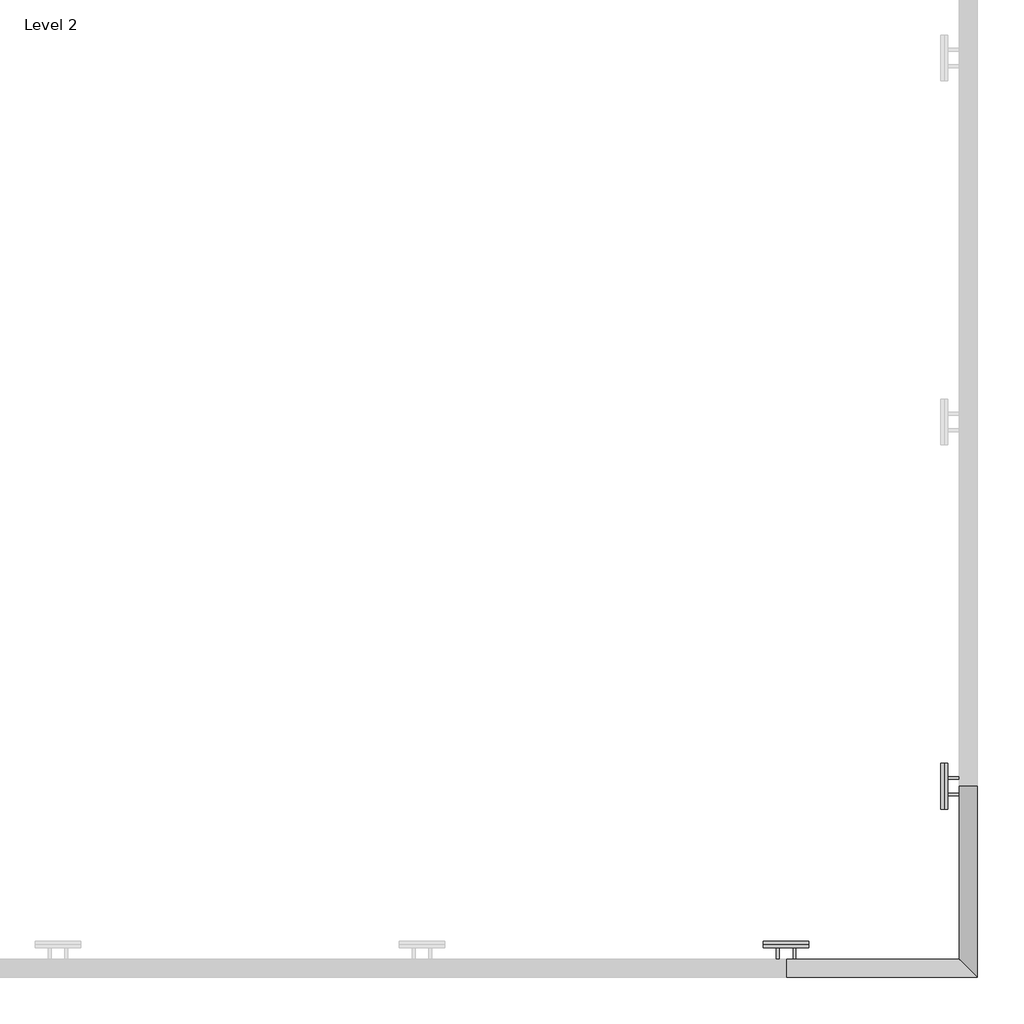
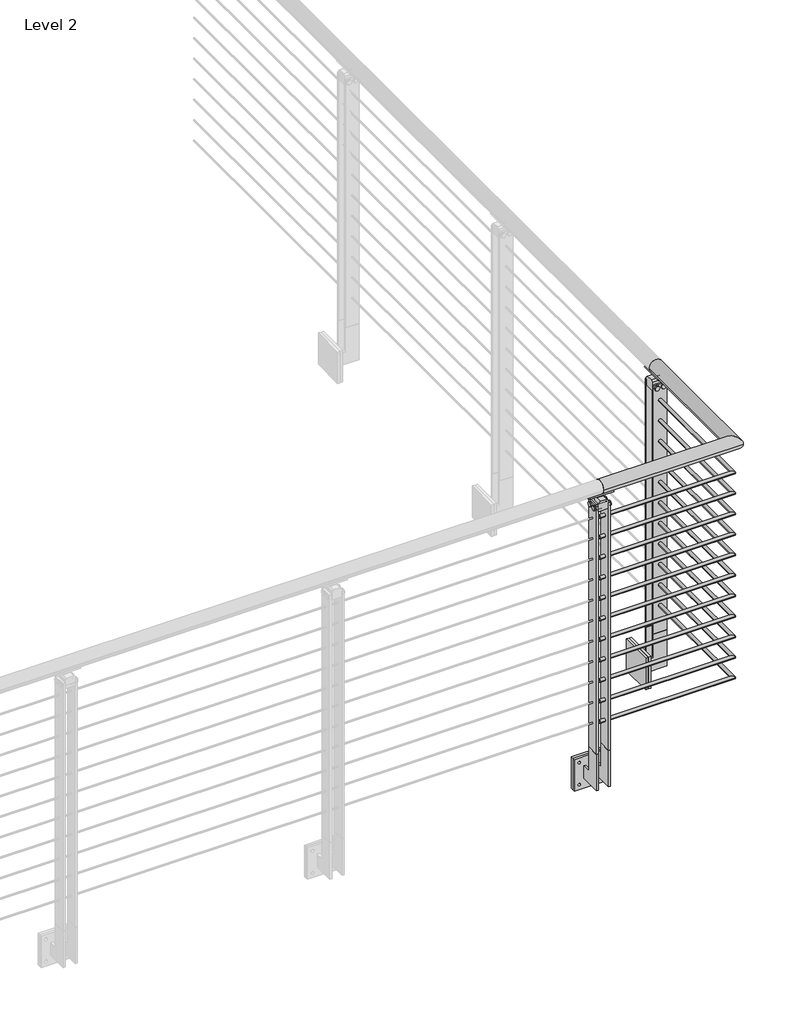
# One storey, part 7 of 31: 1 railing.
"""IFC4 building model written with IfcOpenShell, lengths in millimetres."""

from ifc_helpers import new_model, si_unit, point, frame, frame_2d, origin, place, context, project, spatial, polyline, circle_curve, ellipse_curve, trimmed, segment, composite_curve, outline, extrude, element, save
from ifc_brep_helpers import plane_surface, cylinder_surface, revolved_surface, advanced_brep

model = new_model("IFC4")

# Units and contexts
model_context = context("Model", 3, world=origin())
ifc_project = project(units=[si_unit("LENGTHUNIT", "METRE", prefix="MILLI")], contexts=[model_context])

# Site, building, storey
site = spatial("IfcSite", under=ifc_project)
building = spatial("IfcBuilding", under=site)
storey = spatial("IfcBuildingStorey", under=building, Name="Level 2", Elevation=3048.0)

# Railing
placement = place(None, origin())
element("IfcRailing", 1, ObjectType="VIVA-BLADE-Cable-Fascia Mount-Corner", at=placement, inside=storey, context=model_context, shape_type="SolidModel", body=[
    advanced_brep(
    [(-4153.9664794, -52295.2426165, 4102.1), (-4153.9664794, -52346.0426165, 4102.1), (-3620.5664794, -52346.0426165, 4102.1), (-3671.3664794, -52295.2426165, 4102.1), (-3671.3664794, -51812.6426165, 4102.1), (-3620.5664794, -51812.6426165, 4102.1)],
    [
        (0, 1, circle_curve(frame((-4153.9664794, -52320.6426165, 4102.1), z_axis=(-1.0, 0.0, 0.0), x_axis=(0.0, -1.0, 0.0)), 25.4)),
        (1, 0, circle_curve(frame((-4153.9664794, -52320.6426165, 4102.1), z_axis=(-1.0, 0.0, 0.0), x_axis=(0.0, -1.0, 0.0)), 25.4)),
        (2, 3, ellipse_curve(frame((-3645.9664794, -52320.6426165, 4102.1), z_axis=(-0.7071067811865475, -0.7071067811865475, 0.0), x_axis=(0.7071067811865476, -0.7071067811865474, 0.0)), 35.9210245, 25.4)),
        (3, 0),
        (1, 2),
        (3, 2, ellipse_curve(frame((-3645.9664794, -52320.6426165, 4102.1), z_axis=(-0.7071067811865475, -0.7071067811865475, 0.0), x_axis=(0.7071067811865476, -0.7071067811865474, 0.0)), 35.9210245, 25.4)),
        (4, 5, circle_curve(frame((-3645.9664794, -51812.6426165, 4102.1), z_axis=(0.0, 1.0, 0.0), x_axis=(1.0, 0.0, 0.0)), 25.4)),
        (5, 4, circle_curve(frame((-3645.9664794, -51812.6426165, 4102.1), z_axis=(0.0, 1.0, 0.0), x_axis=(1.0, 0.0, 0.0)), 25.4)),
        (4, 3),
        (2, 5),
    ],
    [
        plane_surface(frame((-4153.9664794, -52320.6426165, 4127.5), z_axis=(-1.0, 0.0, 0.0), x_axis=(0.0, -1.0, 0.0))),
        cylinder_surface(frame((-3645.9664794, -52320.6426165, 4102.1), z_axis=(1.0, 0.0, 0.0), x_axis=(0.0, -1.0, 0.0)), 25.4),
        plane_surface(frame((-3645.9664794, -51812.6426165, 4127.5), z_axis=(0.0, 1.0, 0.0), x_axis=(0.0, 0.0, -1.0))),
        cylinder_surface(frame((-3645.9664794, -51812.6426165, 4102.1), z_axis=(0.0, 1.0, 0.0), x_axis=(1.0, 0.0, 0.0)), 25.4),
    ],
    [
        (0, [[1, 2]]),
        (1, [[3, 4, -2, 5]]),
        (1, [[6, -5, -1, -4]]),
        (2, [[7, 8]]),
        (3, [[-7, 9, -3, 10]]),
        (3, [[-8, -10, -6, -9]]),
    ],
),
    advanced_brep(
    [(-3652.3164794, -51812.6426165, 3981.45), (-3639.6164794, -51812.6426165, 3981.45), (-3639.6164794, -52326.9926165, 3981.45), (-3652.3164794, -52314.2926165, 3981.45), (-4153.9664794, -52314.2926165, 3981.45), (-4153.9664794, -52326.9926165, 3981.45)],
    [
        (0, 1, circle_curve(frame((-3645.9664794, -51812.6426165, 3981.45), z_axis=(0.0, 1.0, 0.0), x_axis=(1.0, 0.0, 0.0)), 6.35)),
        (1, 0, circle_curve(frame((-3645.9664794, -51812.6426165, 3981.45), z_axis=(0.0, 1.0, 0.0), x_axis=(1.0, 0.0, 0.0)), 6.35)),
        (1, 2),
        (2, 3, ellipse_curve(frame((-3645.9664794, -52320.6426165, 3981.45), z_axis=(0.7071067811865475, 0.7071067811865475, 0.0), x_axis=(-0.7071067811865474, 0.7071067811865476, 0.0)), 8.9802561, 6.35)),
        (3, 0),
        (3, 2, ellipse_curve(frame((-3645.9664794, -52320.6426165, 3981.45), z_axis=(0.7071067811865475, 0.7071067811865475, 0.0), x_axis=(-0.7071067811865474, 0.7071067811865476, 0.0)), 8.9802561, 6.35)),
        (4, 5, circle_curve(frame((-4153.9664794, -52320.6426165, 3981.45), z_axis=(-1.0, 0.0, 0.0), x_axis=(0.0, -1.0, 0.0)), 6.35)),
        (5, 4, circle_curve(frame((-4153.9664794, -52320.6426165, 3981.45), z_axis=(-1.0, 0.0, 0.0), x_axis=(0.0, -1.0, 0.0)), 6.35)),
        (2, 5),
        (4, 3),
    ],
    [
        plane_surface(frame((-3645.9664794, -51812.6426165, 3987.8), z_axis=(0.0, 1.0, 0.0), x_axis=(0.0, 0.0, -1.0))),
        cylinder_surface(frame((-3645.9664794, -51812.6426165, 3981.45), z_axis=(0.0, 1.0, 0.0), x_axis=(1.0, 0.0, 0.0)), 6.35),
        plane_surface(frame((-4153.9664794, -52320.6426165, 3987.8), z_axis=(-1.0, 0.0, 0.0), x_axis=(0.0, -1.0, 0.0))),
        cylinder_surface(frame((-3645.9664794, -52320.6426165, 3981.45), z_axis=(1.0, 0.0, 0.0), x_axis=(0.0, -1.0, 0.0)), 6.35),
    ],
    [
        (0, [[1, 2]]),
        (1, [[-2, 3, 4, 5]]),
        (1, [[-1, -5, 6, -3]]),
        (2, [[7, 8]]),
        (3, [[-4, 9, -7, 10]]),
        (3, [[-6, -10, -8, -9]]),
    ],
),
    advanced_brep(
    [(-3652.3164794, -51812.6426165, 3898.9), (-3639.6164794, -51812.6426165, 3898.9), (-3639.6164794, -52326.9926165, 3898.9), (-3652.3164794, -52314.2926165, 3898.9), (-4153.9664794, -52314.2926165, 3898.9), (-4153.9664794, -52326.9926165, 3898.9)],
    [
        (0, 1, circle_curve(frame((-3645.9664794, -51812.6426165, 3898.9), z_axis=(0.0, 1.0, 0.0), x_axis=(1.0, 0.0, 0.0)), 6.35)),
        (1, 0, circle_curve(frame((-3645.9664794, -51812.6426165, 3898.9), z_axis=(0.0, 1.0, 0.0), x_axis=(1.0, 0.0, 0.0)), 6.35)),
        (1, 2),
        (2, 3, ellipse_curve(frame((-3645.9664794, -52320.6426165, 3898.9), z_axis=(0.7071067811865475, 0.7071067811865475, 0.0), x_axis=(-0.7071067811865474, 0.7071067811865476, 0.0)), 8.9802561, 6.35)),
        (3, 0),
        (3, 2, ellipse_curve(frame((-3645.9664794, -52320.6426165, 3898.9), z_axis=(0.7071067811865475, 0.7071067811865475, 0.0), x_axis=(-0.7071067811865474, 0.7071067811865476, 0.0)), 8.9802561, 6.35)),
        (4, 5, circle_curve(frame((-4153.9664794, -52320.6426165, 3898.9), z_axis=(-1.0, 0.0, 0.0), x_axis=(0.0, -1.0, 0.0)), 6.35)),
        (5, 4, circle_curve(frame((-4153.9664794, -52320.6426165, 3898.9), z_axis=(-1.0, 0.0, 0.0), x_axis=(0.0, -1.0, 0.0)), 6.35)),
        (2, 5),
        (4, 3),
    ],
    [
        plane_surface(frame((-3645.9664794, -51812.6426165, 3905.25), z_axis=(0.0, 1.0, 0.0), x_axis=(0.0, 0.0, -1.0))),
        cylinder_surface(frame((-3645.9664794, -51812.6426165, 3898.9), z_axis=(0.0, 1.0, 0.0), x_axis=(1.0, 0.0, 0.0)), 6.35),
        plane_surface(frame((-4153.9664794, -52320.6426165, 3905.25), z_axis=(-1.0, 0.0, 0.0), x_axis=(0.0, -1.0, 0.0))),
        cylinder_surface(frame((-3645.9664794, -52320.6426165, 3898.9), z_axis=(1.0, 0.0, 0.0), x_axis=(0.0, -1.0, 0.0)), 6.35),
    ],
    [
        (0, [[1, 2]]),
        (1, [[-2, 3, 4, 5]]),
        (1, [[-1, -5, 6, -3]]),
        (2, [[7, 8]]),
        (3, [[-4, 9, -7, 10]]),
        (3, [[-6, -10, -8, -9]]),
    ],
),
    advanced_brep(
    [(-3652.3164794, -51812.6426165, 3816.35), (-3639.6164794, -51812.6426165, 3816.35), (-3639.6164794, -52326.9926165, 3816.35), (-3652.3164794, -52314.2926165, 3816.35), (-4153.9664794, -52314.2926165, 3816.35), (-4153.9664794, -52326.9926165, 3816.35)],
    [
        (0, 1, circle_curve(frame((-3645.9664794, -51812.6426165, 3816.35), z_axis=(0.0, 1.0, 0.0), x_axis=(1.0, 0.0, 0.0)), 6.35)),
        (1, 0, circle_curve(frame((-3645.9664794, -51812.6426165, 3816.35), z_axis=(0.0, 1.0, 0.0), x_axis=(1.0, 0.0, 0.0)), 6.35)),
        (1, 2),
        (2, 3, ellipse_curve(frame((-3645.9664794, -52320.6426165, 3816.35), z_axis=(0.7071067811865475, 0.7071067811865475, 0.0), x_axis=(-0.7071067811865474, 0.7071067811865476, 0.0)), 8.9802561, 6.35)),
        (3, 0),
        (3, 2, ellipse_curve(frame((-3645.9664794, -52320.6426165, 3816.35), z_axis=(0.7071067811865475, 0.7071067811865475, 0.0), x_axis=(-0.7071067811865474, 0.7071067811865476, 0.0)), 8.9802561, 6.35)),
        (4, 5, circle_curve(frame((-4153.9664794, -52320.6426165, 3816.35), z_axis=(-1.0, 0.0, 0.0), x_axis=(0.0, -1.0, 0.0)), 6.35)),
        (5, 4, circle_curve(frame((-4153.9664794, -52320.6426165, 3816.35), z_axis=(-1.0, 0.0, 0.0), x_axis=(0.0, -1.0, 0.0)), 6.35)),
        (2, 5),
        (4, 3),
    ],
    [
        plane_surface(frame((-3645.9664794, -51812.6426165, 3822.7), z_axis=(0.0, 1.0, 0.0), x_axis=(0.0, 0.0, -1.0))),
        cylinder_surface(frame((-3645.9664794, -51812.6426165, 3816.35), z_axis=(0.0, 1.0, 0.0), x_axis=(1.0, 0.0, 0.0)), 6.35),
        plane_surface(frame((-4153.9664794, -52320.6426165, 3822.7), z_axis=(-1.0, 0.0, 0.0), x_axis=(0.0, -1.0, 0.0))),
        cylinder_surface(frame((-3645.9664794, -52320.6426165, 3816.35), z_axis=(1.0, 0.0, 0.0), x_axis=(0.0, -1.0, 0.0)), 6.35),
    ],
    [
        (0, [[1, 2]]),
        (1, [[-2, 3, 4, 5]]),
        (1, [[-1, -5, 6, -3]]),
        (2, [[7, 8]]),
        (3, [[-4, 9, -7, 10]]),
        (3, [[-6, -10, -8, -9]]),
    ],
),
    advanced_brep(
    [(-3652.3164794, -51812.6426165, 3733.8), (-3639.6164794, -51812.6426165, 3733.8), (-3639.6164794, -52326.9926165, 3733.8), (-3652.3164794, -52314.2926165, 3733.8), (-4153.9664794, -52314.2926165, 3733.8), (-4153.9664794, -52326.9926165, 3733.8)],
    [
        (0, 1, circle_curve(frame((-3645.9664794, -51812.6426165, 3733.8), z_axis=(0.0, 1.0, 0.0), x_axis=(1.0, 0.0, 0.0)), 6.35)),
        (1, 0, circle_curve(frame((-3645.9664794, -51812.6426165, 3733.8), z_axis=(0.0, 1.0, 0.0), x_axis=(1.0, 0.0, 0.0)), 6.35)),
        (1, 2),
        (2, 3, ellipse_curve(frame((-3645.9664794, -52320.6426165, 3733.8), z_axis=(0.7071067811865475, 0.7071067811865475, 0.0), x_axis=(-0.7071067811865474, 0.7071067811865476, 0.0)), 8.9802561, 6.35)),
        (3, 0),
        (3, 2, ellipse_curve(frame((-3645.9664794, -52320.6426165, 3733.8), z_axis=(0.7071067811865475, 0.7071067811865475, 0.0), x_axis=(-0.7071067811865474, 0.7071067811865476, 0.0)), 8.9802561, 6.35)),
        (4, 5, circle_curve(frame((-4153.9664794, -52320.6426165, 3733.8), z_axis=(-1.0, 0.0, 0.0), x_axis=(0.0, -1.0, 0.0)), 6.35)),
        (5, 4, circle_curve(frame((-4153.9664794, -52320.6426165, 3733.8), z_axis=(-1.0, 0.0, 0.0), x_axis=(0.0, -1.0, 0.0)), 6.35)),
        (2, 5),
        (4, 3),
    ],
    [
        plane_surface(frame((-3645.9664794, -51812.6426165, 3740.15), z_axis=(0.0, 1.0, 0.0), x_axis=(0.0, 0.0, -1.0))),
        cylinder_surface(frame((-3645.9664794, -51812.6426165, 3733.8), z_axis=(0.0, 1.0, 0.0), x_axis=(1.0, 0.0, 0.0)), 6.35),
        plane_surface(frame((-4153.9664794, -52320.6426165, 3740.15), z_axis=(-1.0, 0.0, 0.0), x_axis=(0.0, -1.0, 0.0))),
        cylinder_surface(frame((-3645.9664794, -52320.6426165, 3733.8), z_axis=(1.0, 0.0, 0.0), x_axis=(0.0, -1.0, 0.0)), 6.35),
    ],
    [
        (0, [[1, 2]]),
        (1, [[-2, 3, 4, 5]]),
        (1, [[-1, -5, 6, -3]]),
        (2, [[7, 8]]),
        (3, [[-4, 9, -7, 10]]),
        (3, [[-6, -10, -8, -9]]),
    ],
),
    advanced_brep(
    [(-3652.3164794, -51812.6426165, 3651.25), (-3639.6164794, -51812.6426165, 3651.25), (-3639.6164794, -52326.9926165, 3651.25), (-3652.3164794, -52314.2926165, 3651.25), (-4153.9664794, -52314.2926165, 3651.25), (-4153.9664794, -52326.9926165, 3651.25)],
    [
        (0, 1, circle_curve(frame((-3645.9664794, -51812.6426165, 3651.25), z_axis=(0.0, 1.0, 0.0), x_axis=(1.0, 0.0, 0.0)), 6.35)),
        (1, 0, circle_curve(frame((-3645.9664794, -51812.6426165, 3651.25), z_axis=(0.0, 1.0, 0.0), x_axis=(1.0, 0.0, 0.0)), 6.35)),
        (1, 2),
        (2, 3, ellipse_curve(frame((-3645.9664794, -52320.6426165, 3651.25), z_axis=(0.7071067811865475, 0.7071067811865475, 0.0), x_axis=(-0.7071067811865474, 0.7071067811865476, 0.0)), 8.9802561, 6.35)),
        (3, 0),
        (3, 2, ellipse_curve(frame((-3645.9664794, -52320.6426165, 3651.25), z_axis=(0.7071067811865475, 0.7071067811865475, 0.0), x_axis=(-0.7071067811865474, 0.7071067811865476, 0.0)), 8.9802561, 6.35)),
        (4, 5, circle_curve(frame((-4153.9664794, -52320.6426165, 3651.25), z_axis=(-1.0, 0.0, 0.0), x_axis=(0.0, -1.0, 0.0)), 6.35)),
        (5, 4, circle_curve(frame((-4153.9664794, -52320.6426165, 3651.25), z_axis=(-1.0, 0.0, 0.0), x_axis=(0.0, -1.0, 0.0)), 6.35)),
        (2, 5),
        (4, 3),
    ],
    [
        plane_surface(frame((-3645.9664794, -51812.6426165, 3657.6), z_axis=(0.0, 1.0, 0.0), x_axis=(0.0, 0.0, -1.0))),
        cylinder_surface(frame((-3645.9664794, -51812.6426165, 3651.25), z_axis=(0.0, 1.0, 0.0), x_axis=(1.0, 0.0, 0.0)), 6.35),
        plane_surface(frame((-4153.9664794, -52320.6426165, 3657.6), z_axis=(-1.0, 0.0, 0.0), x_axis=(0.0, -1.0, 0.0))),
        cylinder_surface(frame((-3645.9664794, -52320.6426165, 3651.25), z_axis=(1.0, 0.0, 0.0), x_axis=(0.0, -1.0, 0.0)), 6.35),
    ],
    [
        (0, [[1, 2]]),
        (1, [[-2, 3, 4, 5]]),
        (1, [[-1, -5, 6, -3]]),
        (2, [[7, 8]]),
        (3, [[-4, 9, -7, 10]]),
        (3, [[-6, -10, -8, -9]]),
    ],
),
    advanced_brep(
    [(-3652.3164794, -51812.6426165, 3568.7), (-3639.6164794, -51812.6426165, 3568.7), (-3639.6164794, -52326.9926165, 3568.7), (-3652.3164794, -52314.2926165, 3568.7), (-4153.9664794, -52314.2926165, 3568.7), (-4153.9664794, -52326.9926165, 3568.7)],
    [
        (0, 1, circle_curve(frame((-3645.9664794, -51812.6426165, 3568.7), z_axis=(0.0, 1.0, 0.0), x_axis=(1.0, 0.0, 0.0)), 6.35)),
        (1, 0, circle_curve(frame((-3645.9664794, -51812.6426165, 3568.7), z_axis=(0.0, 1.0, 0.0), x_axis=(1.0, 0.0, 0.0)), 6.35)),
        (1, 2),
        (2, 3, ellipse_curve(frame((-3645.9664794, -52320.6426165, 3568.7), z_axis=(0.7071067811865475, 0.7071067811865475, 0.0), x_axis=(-0.7071067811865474, 0.7071067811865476, 0.0)), 8.9802561, 6.35)),
        (3, 0),
        (3, 2, ellipse_curve(frame((-3645.9664794, -52320.6426165, 3568.7), z_axis=(0.7071067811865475, 0.7071067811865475, 0.0), x_axis=(-0.7071067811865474, 0.7071067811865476, 0.0)), 8.9802561, 6.35)),
        (4, 5, circle_curve(frame((-4153.9664794, -52320.6426165, 3568.7), z_axis=(-1.0, 0.0, 0.0), x_axis=(0.0, -1.0, 0.0)), 6.35)),
        (5, 4, circle_curve(frame((-4153.9664794, -52320.6426165, 3568.7), z_axis=(-1.0, 0.0, 0.0), x_axis=(0.0, -1.0, 0.0)), 6.35)),
        (2, 5),
        (4, 3),
    ],
    [
        plane_surface(frame((-3645.9664794, -51812.6426165, 3575.05), z_axis=(0.0, 1.0, 0.0), x_axis=(0.0, 0.0, -1.0))),
        cylinder_surface(frame((-3645.9664794, -51812.6426165, 3568.7), z_axis=(0.0, 1.0, 0.0), x_axis=(1.0, 0.0, 0.0)), 6.35),
        plane_surface(frame((-4153.9664794, -52320.6426165, 3575.05), z_axis=(-1.0, 0.0, 0.0), x_axis=(0.0, -1.0, 0.0))),
        cylinder_surface(frame((-3645.9664794, -52320.6426165, 3568.7), z_axis=(1.0, 0.0, 0.0), x_axis=(0.0, -1.0, 0.0)), 6.35),
    ],
    [
        (0, [[1, 2]]),
        (1, [[-2, 3, 4, 5]]),
        (1, [[-1, -5, 6, -3]]),
        (2, [[7, 8]]),
        (3, [[-4, 9, -7, 10]]),
        (3, [[-6, -10, -8, -9]]),
    ],
),
    advanced_brep(
    [(-3652.3164794, -51812.6426165, 3486.15), (-3639.6164794, -51812.6426165, 3486.15), (-3639.6164794, -52326.9926165, 3486.15), (-3652.3164794, -52314.2926165, 3486.15), (-4153.9664794, -52314.2926165, 3486.15), (-4153.9664794, -52326.9926165, 3486.15)],
    [
        (0, 1, circle_curve(frame((-3645.9664794, -51812.6426165, 3486.15), z_axis=(0.0, 1.0, 0.0), x_axis=(1.0, 0.0, 0.0)), 6.35)),
        (1, 0, circle_curve(frame((-3645.9664794, -51812.6426165, 3486.15), z_axis=(0.0, 1.0, 0.0), x_axis=(1.0, 0.0, 0.0)), 6.35)),
        (1, 2),
        (2, 3, ellipse_curve(frame((-3645.9664794, -52320.6426165, 3486.15), z_axis=(0.7071067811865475, 0.7071067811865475, 0.0), x_axis=(-0.7071067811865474, 0.7071067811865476, 0.0)), 8.9802561, 6.35)),
        (3, 0),
        (3, 2, ellipse_curve(frame((-3645.9664794, -52320.6426165, 3486.15), z_axis=(0.7071067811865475, 0.7071067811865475, 0.0), x_axis=(-0.7071067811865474, 0.7071067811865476, 0.0)), 8.9802561, 6.35)),
        (4, 5, circle_curve(frame((-4153.9664794, -52320.6426165, 3486.15), z_axis=(-1.0, 0.0, 0.0), x_axis=(0.0, -1.0, 0.0)), 6.35)),
        (5, 4, circle_curve(frame((-4153.9664794, -52320.6426165, 3486.15), z_axis=(-1.0, 0.0, 0.0), x_axis=(0.0, -1.0, 0.0)), 6.35)),
        (2, 5),
        (4, 3),
    ],
    [
        plane_surface(frame((-3645.9664794, -51812.6426165, 3492.5), z_axis=(0.0, 1.0, 0.0), x_axis=(0.0, 0.0, -1.0))),
        cylinder_surface(frame((-3645.9664794, -51812.6426165, 3486.15), z_axis=(0.0, 1.0, 0.0), x_axis=(1.0, 0.0, 0.0)), 6.35),
        plane_surface(frame((-4153.9664794, -52320.6426165, 3492.5), z_axis=(-1.0, 0.0, 0.0), x_axis=(0.0, -1.0, 0.0))),
        cylinder_surface(frame((-3645.9664794, -52320.6426165, 3486.15), z_axis=(1.0, 0.0, 0.0), x_axis=(0.0, -1.0, 0.0)), 6.35),
    ],
    [
        (0, [[1, 2]]),
        (1, [[-2, 3, 4, 5]]),
        (1, [[-1, -5, 6, -3]]),
        (2, [[7, 8]]),
        (3, [[-4, 9, -7, 10]]),
        (3, [[-6, -10, -8, -9]]),
    ],
),
    advanced_brep(
    [(-3652.3164794, -51812.6426165, 3403.6), (-3639.6164794, -51812.6426165, 3403.6), (-3639.6164794, -52326.9926165, 3403.6), (-3652.3164794, -52314.2926165, 3403.6), (-4153.9664794, -52314.2926165, 3403.6), (-4153.9664794, -52326.9926165, 3403.6)],
    [
        (0, 1, circle_curve(frame((-3645.9664794, -51812.6426165, 3403.6), z_axis=(0.0, 1.0, 0.0), x_axis=(1.0, 0.0, 0.0)), 6.35)),
        (1, 0, circle_curve(frame((-3645.9664794, -51812.6426165, 3403.6), z_axis=(0.0, 1.0, 0.0), x_axis=(1.0, 0.0, 0.0)), 6.35)),
        (1, 2),
        (2, 3, ellipse_curve(frame((-3645.9664794, -52320.6426165, 3403.6), z_axis=(0.7071067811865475, 0.7071067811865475, 0.0), x_axis=(-0.7071067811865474, 0.7071067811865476, 0.0)), 8.9802561, 6.35)),
        (3, 0),
        (3, 2, ellipse_curve(frame((-3645.9664794, -52320.6426165, 3403.6), z_axis=(0.7071067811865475, 0.7071067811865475, 0.0), x_axis=(-0.7071067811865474, 0.7071067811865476, 0.0)), 8.9802561, 6.35)),
        (4, 5, circle_curve(frame((-4153.9664794, -52320.6426165, 3403.6), z_axis=(-1.0, 0.0, 0.0), x_axis=(0.0, -1.0, 0.0)), 6.35)),
        (5, 4, circle_curve(frame((-4153.9664794, -52320.6426165, 3403.6), z_axis=(-1.0, 0.0, 0.0), x_axis=(0.0, -1.0, 0.0)), 6.35)),
        (2, 5),
        (4, 3),
    ],
    [
        plane_surface(frame((-3645.9664794, -51812.6426165, 3409.95), z_axis=(0.0, 1.0, 0.0), x_axis=(0.0, 0.0, -1.0))),
        cylinder_surface(frame((-3645.9664794, -51812.6426165, 3403.6), z_axis=(0.0, 1.0, 0.0), x_axis=(1.0, 0.0, 0.0)), 6.35),
        plane_surface(frame((-4153.9664794, -52320.6426165, 3409.95), z_axis=(-1.0, 0.0, 0.0), x_axis=(0.0, -1.0, 0.0))),
        cylinder_surface(frame((-3645.9664794, -52320.6426165, 3403.6), z_axis=(1.0, 0.0, 0.0), x_axis=(0.0, -1.0, 0.0)), 6.35),
    ],
    [
        (0, [[1, 2]]),
        (1, [[-2, 3, 4, 5]]),
        (1, [[-1, -5, 6, -3]]),
        (2, [[7, 8]]),
        (3, [[-4, 9, -7, 10]]),
        (3, [[-6, -10, -8, -9]]),
    ],
),
    advanced_brep(
    [(-3652.3164794, -51812.6426165, 3321.05), (-3639.6164794, -51812.6426165, 3321.05), (-3639.6164794, -52326.9926165, 3321.05), (-3652.3164794, -52314.2926165, 3321.05), (-4153.9664794, -52314.2926165, 3321.05), (-4153.9664794, -52326.9926165, 3321.05)],
    [
        (0, 1, circle_curve(frame((-3645.9664794, -51812.6426165, 3321.05), z_axis=(0.0, 1.0, 0.0), x_axis=(1.0, 0.0, 0.0)), 6.35)),
        (1, 0, circle_curve(frame((-3645.9664794, -51812.6426165, 3321.05), z_axis=(0.0, 1.0, 0.0), x_axis=(1.0, 0.0, 0.0)), 6.35)),
        (1, 2),
        (2, 3, ellipse_curve(frame((-3645.9664794, -52320.6426165, 3321.05), z_axis=(0.7071067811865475, 0.7071067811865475, 0.0), x_axis=(-0.7071067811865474, 0.7071067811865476, 0.0)), 8.9802561, 6.35)),
        (3, 0),
        (3, 2, ellipse_curve(frame((-3645.9664794, -52320.6426165, 3321.05), z_axis=(0.7071067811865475, 0.7071067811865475, 0.0), x_axis=(-0.7071067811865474, 0.7071067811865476, 0.0)), 8.9802561, 6.35)),
        (4, 5, circle_curve(frame((-4153.9664794, -52320.6426165, 3321.05), z_axis=(-1.0, 0.0, 0.0), x_axis=(0.0, -1.0, 0.0)), 6.35)),
        (5, 4, circle_curve(frame((-4153.9664794, -52320.6426165, 3321.05), z_axis=(-1.0, 0.0, 0.0), x_axis=(0.0, -1.0, 0.0)), 6.35)),
        (2, 5),
        (4, 3),
    ],
    [
        plane_surface(frame((-3645.9664794, -51812.6426165, 3327.4), z_axis=(0.0, 1.0, 0.0), x_axis=(0.0, 0.0, -1.0))),
        cylinder_surface(frame((-3645.9664794, -51812.6426165, 3321.05), z_axis=(0.0, 1.0, 0.0), x_axis=(1.0, 0.0, 0.0)), 6.35),
        plane_surface(frame((-4153.9664794, -52320.6426165, 3327.4), z_axis=(-1.0, 0.0, 0.0), x_axis=(0.0, -1.0, 0.0))),
        cylinder_surface(frame((-3645.9664794, -52320.6426165, 3321.05), z_axis=(1.0, 0.0, 0.0), x_axis=(0.0, -1.0, 0.0)), 6.35),
    ],
    [
        (0, [[1, 2]]),
        (1, [[-2, 3, 4, 5]]),
        (1, [[-1, -5, 6, -3]]),
        (2, [[7, 8]]),
        (3, [[-4, 9, -7, 10]]),
        (3, [[-6, -10, -8, -9]]),
    ],
),
    advanced_brep(
    [(-3652.3164794, -51812.6426165, 3238.5), (-3639.6164794, -51812.6426165, 3238.5), (-3639.6164794, -52326.9926165, 3238.5), (-3652.3164794, -52314.2926165, 3238.5), (-4153.9664794, -52314.2926165, 3238.5), (-4153.9664794, -52326.9926165, 3238.5)],
    [
        (0, 1, circle_curve(frame((-3645.9664794, -51812.6426165, 3238.5), z_axis=(0.0, 1.0, 0.0), x_axis=(1.0, 0.0, 0.0)), 6.35)),
        (1, 0, circle_curve(frame((-3645.9664794, -51812.6426165, 3238.5), z_axis=(0.0, 1.0, 0.0), x_axis=(1.0, 0.0, 0.0)), 6.35)),
        (1, 2),
        (2, 3, ellipse_curve(frame((-3645.9664794, -52320.6426165, 3238.5), z_axis=(0.7071067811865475, 0.7071067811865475, 0.0), x_axis=(-0.7071067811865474, 0.7071067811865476, 0.0)), 8.9802561, 6.35)),
        (3, 0),
        (3, 2, ellipse_curve(frame((-3645.9664794, -52320.6426165, 3238.5), z_axis=(0.7071067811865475, 0.7071067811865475, 0.0), x_axis=(-0.7071067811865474, 0.7071067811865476, 0.0)), 8.9802561, 6.35)),
        (4, 5, circle_curve(frame((-4153.9664794, -52320.6426165, 3238.5), z_axis=(-1.0, 0.0, 0.0), x_axis=(0.0, -1.0, 0.0)), 6.35)),
        (5, 4, circle_curve(frame((-4153.9664794, -52320.6426165, 3238.5), z_axis=(-1.0, 0.0, 0.0), x_axis=(0.0, -1.0, 0.0)), 6.35)),
        (2, 5),
        (4, 3),
    ],
    [
        plane_surface(frame((-3645.9664794, -51812.6426165, 3244.85), z_axis=(0.0, 1.0, 0.0), x_axis=(0.0, 0.0, -1.0))),
        cylinder_surface(frame((-3645.9664794, -51812.6426165, 3238.5), z_axis=(0.0, 1.0, 0.0), x_axis=(1.0, 0.0, 0.0)), 6.35),
        plane_surface(frame((-4153.9664794, -52320.6426165, 3244.85), z_axis=(-1.0, 0.0, 0.0), x_axis=(0.0, -1.0, 0.0))),
        cylinder_surface(frame((-3645.9664794, -52320.6426165, 3238.5), z_axis=(1.0, 0.0, 0.0), x_axis=(0.0, -1.0, 0.0)), 6.35),
    ],
    [
        (0, [[1, 2]]),
        (1, [[-2, 3, 4, 5]]),
        (1, [[-1, -5, 6, -3]]),
        (2, [[7, 8]]),
        (3, [[-4, 9, -7, 10]]),
        (3, [[-6, -10, -8, -9]]),
    ],
),
    advanced_brep(
    [(-3652.3164794, -51812.6426165, 3155.95), (-3639.6164794, -51812.6426165, 3155.95), (-3639.6164794, -52326.9926165, 3155.95), (-3652.3164794, -52314.2926165, 3155.95), (-4153.9664794, -52314.2926165, 3155.95), (-4153.9664794, -52326.9926165, 3155.95)],
    [
        (0, 1, circle_curve(frame((-3645.9664794, -51812.6426165, 3155.95), z_axis=(0.0, 1.0, 0.0), x_axis=(1.0, 0.0, 0.0)), 6.35)),
        (1, 0, circle_curve(frame((-3645.9664794, -51812.6426165, 3155.95), z_axis=(0.0, 1.0, 0.0), x_axis=(1.0, 0.0, 0.0)), 6.35)),
        (1, 2),
        (2, 3, ellipse_curve(frame((-3645.9664794, -52320.6426165, 3155.95), z_axis=(0.7071067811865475, 0.7071067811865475, 0.0), x_axis=(-0.7071067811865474, 0.7071067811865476, 0.0)), 8.9802561, 6.35)),
        (3, 0),
        (3, 2, ellipse_curve(frame((-3645.9664794, -52320.6426165, 3155.95), z_axis=(0.7071067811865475, 0.7071067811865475, 0.0), x_axis=(-0.7071067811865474, 0.7071067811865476, 0.0)), 8.9802561, 6.35)),
        (4, 5, circle_curve(frame((-4153.9664794, -52320.6426165, 3155.95), z_axis=(-1.0, 0.0, 0.0), x_axis=(0.0, -1.0, 0.0)), 6.35)),
        (5, 4, circle_curve(frame((-4153.9664794, -52320.6426165, 3155.95), z_axis=(-1.0, 0.0, 0.0), x_axis=(0.0, -1.0, 0.0)), 6.35)),
        (2, 5),
        (4, 3),
    ],
    [
        plane_surface(frame((-3645.9664794, -51812.6426165, 3162.3), z_axis=(0.0, 1.0, 0.0), x_axis=(0.0, 0.0, -1.0))),
        cylinder_surface(frame((-3645.9664794, -51812.6426165, 3155.95), z_axis=(0.0, 1.0, 0.0), x_axis=(1.0, 0.0, 0.0)), 6.35),
        plane_surface(frame((-4153.9664794, -52320.6426165, 3162.3), z_axis=(-1.0, 0.0, 0.0), x_axis=(0.0, -1.0, 0.0))),
        cylinder_surface(frame((-3645.9664794, -52320.6426165, 3155.95), z_axis=(1.0, 0.0, 0.0), x_axis=(0.0, -1.0, 0.0)), 6.35),
    ],
    [
        (0, [[1, 2]]),
        (1, [[-2, 3, 4, 5]]),
        (1, [[-1, -5, 6, -3]]),
        (2, [[7, 8]]),
        (3, [[-4, 9, -7, 10]]),
        (3, [[-6, -10, -8, -9]]),
    ],
),
    extrude(outline(polyline([(-52346.0451445, 2901.95), (-52346.0451445, 3048.0), (-52295.2451445, 3048.0), (-52295.2451445, 2952.75), (-52263.4924108, 2952.75), (-52263.4924108, 2901.95), (-52346.0451445, 2901.95)])), frame((-4134.9164794, 0.0, 0.0), z_axis=(1.0, 0.0, 0.0), x_axis=(0.0, 1.0, 0.0)), (0.0, 0.0, 1.0), 8.0248357),
    extrude(outline(polyline([(-52295.2451445, 3048.0), (-52295.2451445, 2952.75), (-52263.4924108, 2952.75), (-52263.4924108, 2901.95), (-52346.0451445, 2901.95), (-52346.0451445, 3048.0), (-52295.2451445, 3048.0)])), frame((-4181.0174414, 0.0, 0.0), z_axis=(1.0, 0.0, 0.0), x_axis=(0.0, 1.0, 0.0)), (0.0, 0.0, 1.0), 8.001),
    advanced_brep(
    [(-4199.2038794, -52307.8824929, 4080.0967655), (-4199.2038794, -52304.0465955, 4075.707533), (-4199.2038794, -52335.5634877, 4075.1267745), (-4199.2038794, -52332.7545574, 4079.9535285), (-4108.7290794, -52307.8824929, 4080.0967655), (-4108.7290794, -52332.8415296, 4080.0018447), (-4108.7290794, -52335.6772811, 4075.1893964), (-4108.7290794, -52304.0465955, 4075.707533)],
    [
        (0, 1, circle_curve(frame((-4199.2038794, -52306.3349352, 4077.5784521), z_axis=(-1.0, 0.0, 0.0), x_axis=(0.0, 1.0, 0.0)), 2.9558141)),
        (1, 2, circle_curve(frame((-4199.2038794, -52320.3128327, 4102.9742164), z_axis=(-1.0, 0.0, 0.0), x_axis=(0.0, 1.0, 0.0)), 31.75)),
        (2, 3, circle_curve(frame((-4199.2038794, -52334.0861827, 4077.4993599), z_axis=(-1.0, 0.0, 0.0), x_axis=(0.0, 1.0, 0.0)), 2.7949225)),
        (3, 0, circle_curve(frame((-4199.2038794, -52320.4462958, 4102.2115898), z_axis=(1.0, 0.0, 0.0), x_axis=(0.0, 1.0, 0.0)), 25.4345159)),
        (4, 5, circle_curve(frame((-4108.7290794, -52320.4462958, 4102.2115898), z_axis=(-1.0, 0.0, 0.0), x_axis=(0.0, 1.0, 0.0)), 25.4345159)),
        (5, 6, circle_curve(frame((-4108.7290794, -52334.0861827, 4077.4993599), z_axis=(1.0, 0.0, 0.0), x_axis=(0.0, 1.0, 0.0)), 2.7949225)),
        (6, 7, circle_curve(frame((-4108.7290794, -52320.3128327, 4102.9742164), z_axis=(1.0, 0.0, 0.0), x_axis=(0.0, 1.0, 0.0)), 31.75)),
        (7, 4, circle_curve(frame((-4108.7290794, -52306.3349352, 4077.5784521), z_axis=(1.0, 0.0, 0.0), x_axis=(0.0, 1.0, 0.0)), 2.9558141)),
        (3, 5),
        (4, 0),
        (2, 6),
        (1, 7),
    ],
    [
        plane_surface(frame((-4199.2038794, -52295.0117799, 4102.2115898), z_axis=(-1.0, 0.0, 0.0), x_axis=(0.0, 0.0, -1.0))),
        plane_surface(frame((-4108.7290794, -52295.0117799, 4102.2115898), z_axis=(1.0, 0.0, 0.0), x_axis=(0.0, 0.0, 1.0))),
        revolved_surface(polyline([(-4108.7290794, -52295.0117799, 4102.2115898), (-4199.2038794, -52295.0117799, 4102.2115898)]), (-4108.7290794, -52320.4462958, 4102.2115898), (1.0, 0.0, 0.0)),
        cylinder_surface(frame((-4108.7290794, -52334.0861827, 4077.4993599), z_axis=(-1.0, 0.0, 0.0), x_axis=(0.0, 1.0, 0.0)), 2.7949225),
        cylinder_surface(frame((-4108.7290794, -52320.3128327, 4102.9742164), z_axis=(-1.0, 0.0, 0.0), x_axis=(0.0, 1.0, 0.0)), 31.75),
        cylinder_surface(frame((-4108.7290794, -52306.3349352, 4077.5784521), z_axis=(-1.0, 0.0, 0.0), x_axis=(0.0, 1.0, 0.0)), 2.9558141),
    ],
    [
        (0, [[1, 2, 3, 4]]),
        (1, [[5, 6, 7, 8]]),
        (2, [[9, -5, 10, -4]]),
        (3, [[11, -6, -9, -3]]),
        (4, [[12, -7, -11, -2]]),
        (5, [[-10, -8, -12, -1]]),
    ],
),
    extrude(outline(polyline([(-4217.4545425, -52244.4424108), (-4090.4545425, -52244.4424108), (-4090.4545425, -52253.9674108), (-4217.4545425, -52253.9674108), (-4217.4545425, -52244.4424108)])), frame((0.0, 0.0, 2863.85), z_axis=(0.0, 0.0, 1.0), x_axis=(1.0, 0.0, 0.0)), (0.0, 0.0, 1.0), 127.0),
    extrude(outline(composite_curve([segment(polyline([(4062.4125, -4166.6664794), (4062.4125, -4141.2664794)]), True, "CONTINUOUS"), segment(trimmed(circle_curve(frame_2d((4062.4125, -4126.8985645)), 14.3679149), [point((4062.4125, -4141.2664794))], [point((4076.7804149, -4126.8985645))], True, "CARTESIAN"), True, "CONTINUOUS"), segment(polyline([(4076.7804149, -4126.8985645), (4076.7804149, -4181.0343942)]), True, "CONTINUOUS"), segment(trimmed(circle_curve(frame_2d((4062.4125, -4181.0343942)), 14.3679149), [point((4076.7804149, -4181.0343942))], [point((4062.4125, -4166.6664794))], True, "CARTESIAN"), True, "CONTINUOUS")], self_intersect=False)), frame((0.0, -52323.1826165, 0.0), z_axis=(0.0, 1.0, 0.0), x_axis=(0.0, 0.0, 1.0)), (0.0, 0.0, 1.0), 5.08),
    extrude(outline(polyline([(-4126.8916437, -52295.2428199), (-4126.8916437, -52346.0451445), (-4134.9164794, -52346.0451445), (-4134.9164794, -52295.2428199), (-4126.8916437, -52295.2428199)])), frame((0.0, 0.0, 3048.0), z_axis=(0.0, 0.0, 1.0), x_axis=(1.0, 0.0, 0.0)), (0.0, 0.0, 1.0), 996.95),
    extrude(outline(polyline([(2863.85, -4090.4545425), (2990.85, -4090.4545425), (2990.85, -4217.4545425), (2863.85, -4217.4545425), (2863.85, -4090.4545425)]), holes=[composite_curve([segment(trimmed(circle_curve(frame_2d((2971.8, -4109.5045425)), 4.7068371), [point((2971.8, -4114.2113796))], [point((2971.8, -4104.7977054))], True, "CARTESIAN"), True, "CONTINUOUS"), segment(trimmed(circle_curve(frame_2d((2971.8, -4109.5045425)), 4.7068371), [point((2971.8, -4104.7977054))], [point((2971.8, -4114.2113796))], True, "CARTESIAN"), True, "CONTINUOUS")], self_intersect=False), composite_curve([segment(trimmed(circle_curve(frame_2d((2971.8, -4198.4045425)), 4.7068371), [point((2971.8, -4203.1113796))], [point((2971.8, -4193.6977054))], True, "CARTESIAN"), True, "CONTINUOUS"), segment(trimmed(circle_curve(frame_2d((2971.8, -4198.4045425)), 4.7068371), [point((2971.8, -4193.6977054))], [point((2971.8, -4203.1113796))], True, "CARTESIAN"), True, "CONTINUOUS")], self_intersect=False), composite_curve([segment(trimmed(circle_curve(frame_2d((2882.9, -4198.4045425)), 4.7068371), [point((2882.9, -4203.1113796))], [point((2882.9, -4193.6977054))], True, "CARTESIAN"), True, "CONTINUOUS"), segment(trimmed(circle_curve(frame_2d((2882.9, -4198.4045425)), 4.7068371), [point((2882.9, -4193.6977054))], [point((2882.9, -4203.1113796))], True, "CARTESIAN"), True, "CONTINUOUS")], self_intersect=False), composite_curve([segment(trimmed(circle_curve(frame_2d((2882.9, -4109.5045425)), 4.7068371), [point((2882.9, -4114.2113796))], [point((2882.9, -4104.7977054))], True, "CARTESIAN"), True, "CONTINUOUS"), segment(trimmed(circle_curve(frame_2d((2882.9, -4109.5045425)), 4.7068371), [point((2882.9, -4104.7977054))], [point((2882.9, -4114.2113796))], True, "CARTESIAN"), True, "CONTINUOUS")], self_intersect=False)]), frame((0.0, -52263.4924108, 0.0), z_axis=(0.0, 1.0, 0.0), x_axis=(0.0, 0.0, 1.0)), (0.0, 0.0, 1.0), 9.525),
    extrude(outline(composite_curve([segment(trimmed(circle_curve(frame_2d((-52333.3450935, 4034.0416929)), 8.89), [point((-52342.2350935, 4034.0416929))], [point((-52324.4550935, 4034.0416929))], False, "CARTESIAN"), True, "CONTINUOUS"), segment(trimmed(circle_curve(frame_2d((-52333.3450935, 4034.0416929)), 8.89), [point((-52324.4550935, 4034.0416929))], [point((-52342.2350935, 4034.0416929))], False, "CARTESIAN"), True, "CONTINUOUS")], self_intersect=False)), frame((-4185.7045425, 0.0, 0.0), z_axis=(1.0, 0.0, 0.0), x_axis=(0.0, 1.0, 0.0)), (0.0, 0.0, 1.0), 63.4880631),
    extrude(outline(composite_curve([segment(trimmed(circle_curve(frame_2d((-52307.9451955, 4034.0416929)), 8.89), [point((-52316.8351955, 4034.0416929))], [point((-52299.0551955, 4034.0416929))], False, "CARTESIAN"), True, "CONTINUOUS"), segment(trimmed(circle_curve(frame_2d((-52307.9451955, 4034.0416929)), 8.89), [point((-52299.0551955, 4034.0416929))], [point((-52316.8351955, 4034.0416929))], False, "CARTESIAN"), True, "CONTINUOUS")], self_intersect=False)), frame((-4185.7045425, 0.0, 0.0), z_axis=(1.0, 0.0, 0.0), x_axis=(0.0, 1.0, 0.0)), (0.0, 0.0, 1.0), 63.4880631),
    extrude(outline(polyline([(4022.7123, -4134.9164794), (4056.0625, -4134.9164794), (4062.4125, -4141.2664794), (4062.4125, -4166.6664794), (4056.0625, -4173.0164794), (4022.7123, -4173.0164794), (4022.7123, -4134.9164794)])), frame((0.0, -52346.0451445, 0.0), z_axis=(0.0, 1.0, 0.0), x_axis=(0.0, 0.0, 1.0)), (0.0, 0.0, 1.0), 50.8025279),
    extrude(outline(polyline([(-4173.0164414, -52295.2428199), (-4173.0164414, -52346.0451445), (-4181.0174414, -52346.0451445), (-4181.0174414, -52295.2428199), (-4173.0164414, -52295.2428199)])), frame((0.0, 0.0, 3048.0), z_axis=(0.0, 0.0, 1.0), x_axis=(1.0, 0.0, 0.0)), (0.0, 0.0, 1.0), 996.95),
    extrude(outline(polyline([(2901.95, -3620.5639514), (3048.0, -3620.5639514), (3048.0, -3671.3639514), (2952.75, -3671.3639514), (2952.75, -3703.1166851), (2901.95, -3703.1166851), (2901.95, -3620.5639514)])), frame((0.0, -51793.5926165, 0.0), z_axis=(0.0, 1.0, 0.0), x_axis=(0.0, 0.0, 1.0)), (0.0, 0.0, 1.0), 8.0248357),
    extrude(outline(polyline([(3048.0, -3671.3639514), (2952.75, -3671.3639514), (2952.75, -3703.1166851), (2901.95, -3703.1166851), (2901.95, -3620.5639514), (3048.0, -3620.5639514), (3048.0, -3671.3639514)])), frame((0.0, -51839.6935785, 0.0), z_axis=(0.0, 1.0, 0.0), x_axis=(0.0, 0.0, 1.0)), (0.0, 0.0, 1.0), 8.001),
    advanced_brep(
    [(-3658.726603, -51857.8800165, 4080.0967655), (-3662.5625004, -51857.8800165, 4075.707533), (-3631.0456082, -51857.8800165, 4075.1267745), (-3633.8545385, -51857.8800165, 4079.9535285), (-3658.726603, -51767.4052165, 4080.0967655), (-3633.7675664, -51767.4052165, 4080.0018447), (-3630.9318148, -51767.4052165, 4075.1893964), (-3662.5625004, -51767.4052165, 4075.707533)],
    [
        (0, 1, circle_curve(frame((-3660.2741607, -51857.8800165, 4077.5784521), z_axis=(0.0, -1.0, 0.0), x_axis=(-1.0, 0.0, 0.0)), 2.9558141)),
        (1, 2, circle_curve(frame((-3646.2962632, -51857.8800165, 4102.9742164), z_axis=(0.0, -1.0, 0.0), x_axis=(-1.0, 0.0, 0.0)), 31.75)),
        (2, 3, circle_curve(frame((-3632.5229132, -51857.8800165, 4077.4993599), z_axis=(0.0, -1.0, 0.0), x_axis=(-1.0, 0.0, 0.0)), 2.7949225)),
        (3, 0, circle_curve(frame((-3646.1628001, -51857.8800165, 4102.2115898), z_axis=(0.0, 1.0, 0.0), x_axis=(-1.0, 0.0, 0.0)), 25.4345159)),
        (4, 5, circle_curve(frame((-3646.1628001, -51767.4052165, 4102.2115898), z_axis=(0.0, -1.0, 0.0), x_axis=(-1.0, 0.0, 0.0)), 25.4345159)),
        (5, 6, circle_curve(frame((-3632.5229132, -51767.4052165, 4077.4993599), z_axis=(0.0, 1.0, 0.0), x_axis=(-1.0, 0.0, 0.0)), 2.7949225)),
        (6, 7, circle_curve(frame((-3646.2962632, -51767.4052165, 4102.9742164), z_axis=(0.0, 1.0, 0.0), x_axis=(-1.0, 0.0, 0.0)), 31.75)),
        (7, 4, circle_curve(frame((-3660.2741607, -51767.4052165, 4077.5784521), z_axis=(0.0, 1.0, 0.0), x_axis=(-1.0, 0.0, 0.0)), 2.9558141)),
        (3, 5),
        (4, 0),
        (2, 6),
        (1, 7),
    ],
    [
        plane_surface(frame((-3671.597316, -51857.8800165, 4102.2115898), z_axis=(0.0, -1.0, 0.0), x_axis=(0.0, 0.0, -1.0))),
        plane_surface(frame((-3671.597316, -51767.4052165, 4102.2115898), z_axis=(0.0, 1.0, 0.0), x_axis=(0.0, 0.0, 1.0))),
        revolved_surface(polyline([(-3671.597316, -51767.4052165, 4102.2115898), (-3671.597316, -51857.8800165, 4102.2115898)]), (-3646.1628001, -51767.4052165, 4102.2115898), (0.0, 1.0, 0.0)),
        cylinder_surface(frame((-3632.5229132, -51767.4052165, 4077.4993599), z_axis=(0.0, -1.0, 0.0), x_axis=(-1.0, 0.0, 0.0)), 2.7949225),
        cylinder_surface(frame((-3646.2962632, -51767.4052165, 4102.9742164), z_axis=(0.0, -1.0, 0.0), x_axis=(-1.0, 0.0, 0.0)), 31.75),
        cylinder_surface(frame((-3660.2741607, -51767.4052165, 4077.5784521), z_axis=(0.0, -1.0, 0.0), x_axis=(-1.0, 0.0, 0.0)), 2.9558141),
    ],
    [
        (0, [[1, 2, 3, 4]]),
        (1, [[5, 6, 7, 8]]),
        (2, [[9, -5, 10, -4]]),
        (3, [[11, -6, -9, -3]]),
        (4, [[12, -7, -11, -2]]),
        (5, [[-10, -8, -12, -1]]),
    ],
),
    extrude(outline(polyline([(-3722.1666851, -51876.1306797), (-3722.1666851, -51749.1306797), (-3712.6416851, -51749.1306797), (-3712.6416851, -51876.1306797), (-3722.1666851, -51876.1306797)])), frame((0.0, 0.0, 2863.85), z_axis=(0.0, 0.0, 1.0), x_axis=(1.0, 0.0, 0.0)), (0.0, 0.0, 1.0), 127.0),
    extrude(outline(composite_curve([segment(trimmed(circle_curve(frame_2d((-51839.7105314, 4062.4125)), 14.3679149), [point((-51825.3426165, 4062.4125))], [point((-51839.7105314, 4076.7804149))], True, "CARTESIAN"), True, "CONTINUOUS"), segment(polyline([(-51839.7105314, 4076.7804149), (-51785.5747017, 4076.7804149)]), True, "CONTINUOUS"), segment(trimmed(circle_curve(frame_2d((-51785.5747017, 4062.4125)), 14.3679149), [point((-51785.5747017, 4076.7804149))], [point((-51799.9426165, 4062.4125))], True, "CARTESIAN"), True, "CONTINUOUS"), segment(polyline([(-51799.9426165, 4062.4125), (-51825.3426165, 4062.4125)]), True, "CONTINUOUS")], self_intersect=False)), frame((-3648.5064794, 0.0, 0.0), z_axis=(1.0, 0.0, 0.0), x_axis=(0.0, 1.0, 0.0)), (0.0, 0.0, 1.0), 5.08),
    extrude(outline(polyline([(-3671.366276, -51785.5677809), (-3620.5639514, -51785.5677809), (-3620.5639514, -51793.5926165), (-3671.366276, -51793.5926165), (-3671.366276, -51785.5677809)])), frame((0.0, 0.0, 3048.0), z_axis=(0.0, 0.0, 1.0), x_axis=(1.0, 0.0, 0.0)), (0.0, 0.0, 1.0), 996.95),
    extrude(outline(polyline([(-51749.1306797, 2863.85), (-51876.1306797, 2863.85), (-51876.1306797, 2990.85), (-51749.1306797, 2990.85), (-51749.1306797, 2863.85)]), holes=[composite_curve([segment(trimmed(circle_curve(frame_2d((-51768.1806797, 2971.8)), 4.7068371), [point((-51772.8875168, 2971.8))], [point((-51763.4738426, 2971.8))], True, "CARTESIAN"), True, "CONTINUOUS"), segment(trimmed(circle_curve(frame_2d((-51768.1806797, 2971.8)), 4.7068371), [point((-51763.4738426, 2971.8))], [point((-51772.8875168, 2971.8))], True, "CARTESIAN"), True, "CONTINUOUS")], self_intersect=False), composite_curve([segment(trimmed(circle_curve(frame_2d((-51857.0806797, 2971.8)), 4.7068371), [point((-51861.7875168, 2971.8))], [point((-51852.3738426, 2971.8))], True, "CARTESIAN"), True, "CONTINUOUS"), segment(trimmed(circle_curve(frame_2d((-51857.0806797, 2971.8)), 4.7068371), [point((-51852.3738426, 2971.8))], [point((-51861.7875168, 2971.8))], True, "CARTESIAN"), True, "CONTINUOUS")], self_intersect=False), composite_curve([segment(trimmed(circle_curve(frame_2d((-51857.0806797, 2882.9)), 4.7068371), [point((-51861.7875168, 2882.9))], [point((-51852.3738426, 2882.9))], True, "CARTESIAN"), True, "CONTINUOUS"), segment(trimmed(circle_curve(frame_2d((-51857.0806797, 2882.9)), 4.7068371), [point((-51852.3738426, 2882.9))], [point((-51861.7875168, 2882.9))], True, "CARTESIAN"), True, "CONTINUOUS")], self_intersect=False), composite_curve([segment(trimmed(circle_curve(frame_2d((-51768.1806797, 2882.9)), 4.7068371), [point((-51772.8875168, 2882.9))], [point((-51763.4738426, 2882.9))], True, "CARTESIAN"), True, "CONTINUOUS"), segment(trimmed(circle_curve(frame_2d((-51768.1806797, 2882.9)), 4.7068371), [point((-51763.4738426, 2882.9))], [point((-51772.8875168, 2882.9))], True, "CARTESIAN"), True, "CONTINUOUS")], self_intersect=False)]), frame((-3712.6416851, 0.0, 0.0), z_axis=(1.0, 0.0, 0.0), x_axis=(0.0, 1.0, 0.0)), (0.0, 0.0, 1.0), 9.525),
    extrude(outline(composite_curve([segment(trimmed(circle_curve(frame_2d((4034.0416929, -3633.2640024)), 8.89), [point((4034.0416929, -3624.3740024))], [point((4034.0416929, -3642.1540024))], False, "CARTESIAN"), True, "CONTINUOUS"), segment(trimmed(circle_curve(frame_2d((4034.0416929, -3633.2640024)), 8.89), [point((4034.0416929, -3642.1540024))], [point((4034.0416929, -3624.3740024))], False, "CARTESIAN"), True, "CONTINUOUS")], self_intersect=False)), frame((0.0, -51844.3806797, 0.0), z_axis=(0.0, 1.0, 0.0), x_axis=(0.0, 0.0, 1.0)), (0.0, 0.0, 1.0), 63.4880631),
    extrude(outline(composite_curve([segment(trimmed(circle_curve(frame_2d((4034.0416929, -3658.6639004)), 8.89), [point((4034.0416929, -3649.7739004))], [point((4034.0416929, -3667.5539004))], False, "CARTESIAN"), True, "CONTINUOUS"), segment(trimmed(circle_curve(frame_2d((4034.0416929, -3658.6639004)), 8.89), [point((4034.0416929, -3667.5539004))], [point((4034.0416929, -3649.7739004))], False, "CARTESIAN"), True, "CONTINUOUS")], self_intersect=False)), frame((0.0, -51844.3806797, 0.0), z_axis=(0.0, 1.0, 0.0), x_axis=(0.0, 0.0, 1.0)), (0.0, 0.0, 1.0), 63.4880631),
    extrude(outline(polyline([(-51793.5926165, 4022.7123), (-51831.6926165, 4022.7123), (-51831.6926165, 4056.0625), (-51825.3426165, 4062.4125), (-51799.9426165, 4062.4125), (-51793.5926165, 4056.0625), (-51793.5926165, 4022.7123)])), frame((-3671.3664794, 0.0, 0.0), z_axis=(1.0, 0.0, 0.0), x_axis=(0.0, 1.0, 0.0)), (0.0, 0.0, 1.0), 50.8025279),
    extrude(outline(polyline([(-3671.366276, -51831.6925785), (-3620.5639514, -51831.6925785), (-3620.5639514, -51839.6935785), (-3671.366276, -51839.6935785), (-3671.366276, -51831.6925785)])), frame((0.0, 0.0, 3048.0), z_axis=(0.0, 0.0, 1.0), x_axis=(1.0, 0.0, 0.0)), (0.0, 0.0, 1.0), 996.95),
])

save(model, "model.ifc")
